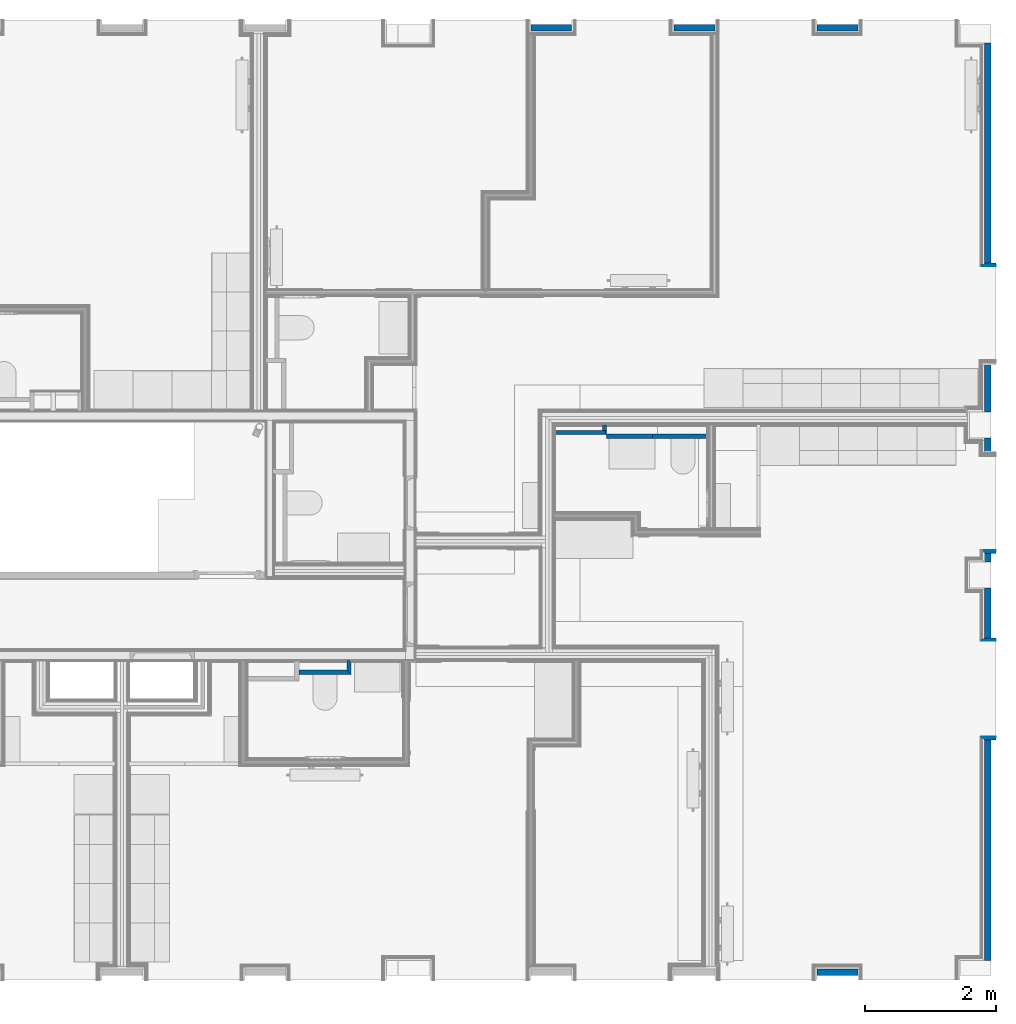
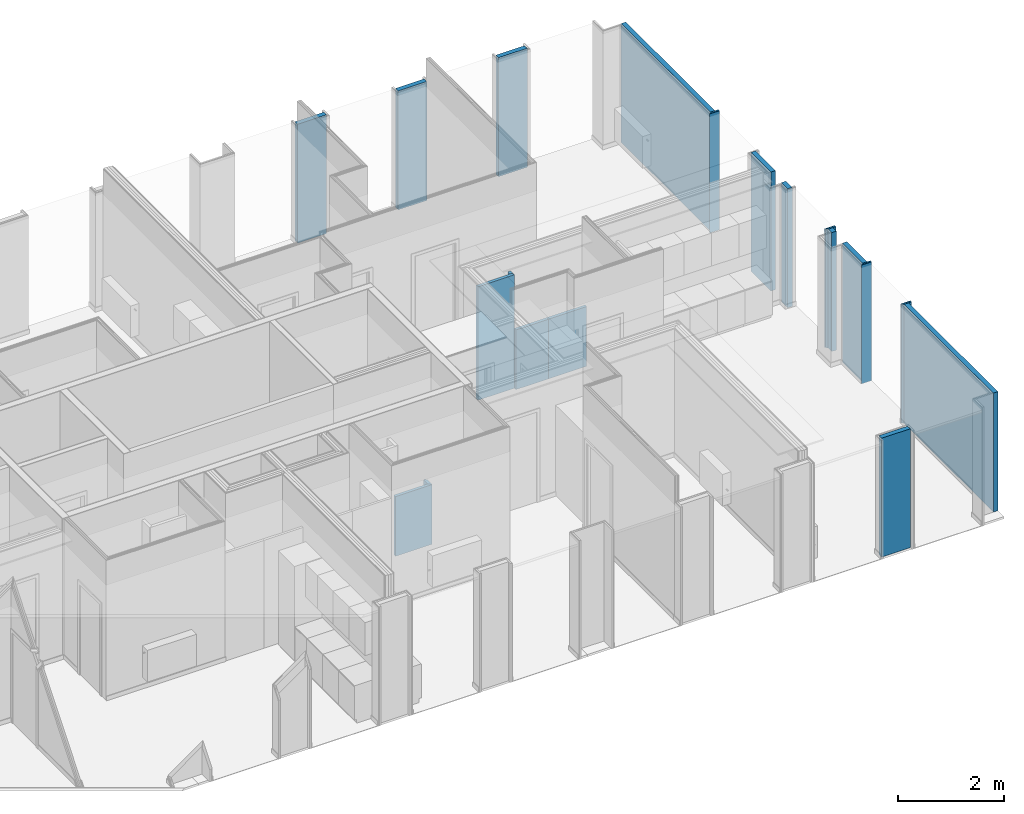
# One storey, part 5 of 64: 24 walls.
"""IFC2X3 building model written with IfcOpenShell, lengths in metres."""

from ifc_helpers import new_model, entity, si_unit, converted_unit, derived_unit, money_unit, direction, frame, frame_2d, origin_with_axes, place, context, subcontext, project, spatial, polyline, rectangle, outline, extrude, material, layer, layer_set, layer_usage, type_object, element, save


model = new_model("IFC2X3")

# Units and contexts
model_context = context("Model", 3, precision=1e-05, world=origin_with_axes(), true_north=direction((0.0, 1.0)))
body_context = subcontext(model_context, "Body", "Model", "MODEL_VIEW", scale=1.0)
ifc_project = project(units=[si_unit("LENGTHUNIT", "METRE"), si_unit("AREAUNIT", "SQUARE_METRE"), si_unit("VOLUMEUNIT", "CUBIC_METRE"), si_unit("ABSORBEDDOSEUNIT", "GRAY"), si_unit("AMOUNTOFSUBSTANCEUNIT", "MOLE"), si_unit("DOSEEQUIVALENTUNIT", "SIEVERT"), si_unit("ELECTRICCAPACITANCEUNIT", "FARAD"), si_unit("ELECTRICCHARGEUNIT", "COULOMB"), si_unit("ELECTRICCONDUCTANCEUNIT", "SIEMENS"), si_unit("ELECTRICCURRENTUNIT", "AMPERE"), si_unit("ELECTRICRESISTANCEUNIT", "OHM"), si_unit("ELECTRICVOLTAGEUNIT", "VOLT"), si_unit("ENERGYUNIT", "JOULE"), si_unit("FORCEUNIT", "NEWTON"), si_unit("FREQUENCYUNIT", "HERTZ"), si_unit("ILLUMINANCEUNIT", "LUX"), si_unit("INDUCTANCEUNIT", "HENRY"), si_unit("LUMINOUSFLUXUNIT", "LUMEN"), si_unit("LUMINOUSINTENSITYUNIT", "CANDELA"), si_unit("MAGNETICFLUXDENSITYUNIT", "TESLA"), si_unit("MAGNETICFLUXUNIT", "WEBER"), si_unit("MASSUNIT", "GRAM"), converted_unit("PLANEANGLEUNIT", "degree", entity("IfcReal", 0.0174532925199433), si_unit("PLANEANGLEUNIT", "RADIAN"), dimensions=[0, 0, 0, 0, 0, 0, 0]), si_unit("POWERUNIT", "WATT"), si_unit("PRESSUREUNIT", "PASCAL"), si_unit("RADIOACTIVITYUNIT", "BECQUEREL"), si_unit("SOLIDANGLEUNIT", "STERADIAN"), si_unit("THERMODYNAMICTEMPERATUREUNIT", "KELVIN"), si_unit("TIMEUNIT", "SECOND"), derived_unit("ACCELERATIONUNIT", [(si_unit("LENGTHUNIT", "METRE"), 1), (si_unit("TIMEUNIT", "SECOND"), -2)]), derived_unit("ANGULARVELOCITYUNIT", [(converted_unit("PLANEANGLEUNIT", "degree", entity("IfcReal", 0.0174532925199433), si_unit("PLANEANGLEUNIT", "RADIAN"), dimensions=[0, 0, 0, 0, 0, 0, 0]), 1), (si_unit("TIMEUNIT", "SECOND"), -1)]), derived_unit("CURVATUREUNIT", [(converted_unit("PLANEANGLEUNIT", "degree", entity("IfcReal", 0.0174532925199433), si_unit("PLANEANGLEUNIT", "RADIAN"), dimensions=[0, 0, 0, 0, 0, 0, 0]), 1), (si_unit("LENGTHUNIT", "METRE"), -1)]), derived_unit("DYNAMICVISCOSITYUNIT", [(si_unit("PRESSUREUNIT", "PASCAL"), 1), (si_unit("TIMEUNIT", "SECOND"), 1)]), derived_unit("HEATFLUXDENSITYUNIT", [(si_unit("POWERUNIT", "WATT"), 1), (si_unit("LENGTHUNIT", "METRE"), -2)]), derived_unit("HEATINGVALUEUNIT", [(si_unit("ENERGYUNIT", "JOULE"), 1), (si_unit("MASSUNIT", "GRAM"), -1)]), derived_unit("INTEGERCOUNTRATEUNIT", [(si_unit("TIMEUNIT", "SECOND"), -1)]), derived_unit("IONCONCENTRATIONUNIT", [(si_unit("MASSUNIT", "GRAM"), 1), (si_unit("VOLUMEUNIT", "CUBIC_METRE"), -1)]), derived_unit("ISOTHERMALMOISTURECAPACITYUNIT", [(si_unit("VOLUMEUNIT", "CUBIC_METRE"), 1), (si_unit("MASSUNIT", "GRAM"), -1)]), derived_unit("KINEMATICVISCOSITYUNIT", [(si_unit("AREAUNIT", "SQUARE_METRE"), 1), (si_unit("TIMEUNIT", "SECOND"), -1)]), derived_unit("LINEARFORCEUNIT", [(si_unit("FORCEUNIT", "NEWTON"), 1), (si_unit("LENGTHUNIT", "METRE"), -1)]), derived_unit("LINEARMOMENTUNIT", [(si_unit("FORCEUNIT", "NEWTON"), 1), (si_unit("LENGTHUNIT", "METRE"), -1)]), derived_unit("LINEARSTIFFNESSUNIT", [(si_unit("FORCEUNIT", "NEWTON"), 1), (si_unit("LENGTHUNIT", "METRE"), -1)]), derived_unit("LINEARVELOCITYUNIT", [(si_unit("LENGTHUNIT", "METRE"), 1), (si_unit("TIMEUNIT", "SECOND"), -1)]), derived_unit("LUMINOUSINTENSITYDISTRIBUTIONUNIT", [(si_unit("LUMINOUSINTENSITYUNIT", "CANDELA"), 1), (si_unit("LUMINOUSFLUXUNIT", "LUMEN"), -1)]), derived_unit("MASSDENSITYUNIT", [(si_unit("MASSUNIT", "GRAM"), 1), (si_unit("VOLUMEUNIT", "CUBIC_METRE"), -1)]), derived_unit("MASSFLOWRATEUNIT", [(si_unit("MASSUNIT", "GRAM"), 1), (si_unit("TIMEUNIT", "SECOND"), -1)]), derived_unit("MASSPERLENGTHUNIT", [(si_unit("MASSUNIT", "GRAM"), 1), (si_unit("LENGTHUNIT", "METRE"), -1)]), derived_unit("MODULUSOFELASTICITYUNIT", [(si_unit("FORCEUNIT", "NEWTON"), 1), (si_unit("AREAUNIT", "SQUARE_METRE"), -1)]), derived_unit("MODULUSOFLINEARSUBGRADEREACTIONUNIT", [(si_unit("FORCEUNIT", "NEWTON"), 1), (si_unit("LENGTHUNIT", "METRE"), -2)]), derived_unit("MODULUSOFROTATIONALSUBGRADEREACTIONUNIT", [(si_unit("FORCEUNIT", "NEWTON"), 1), (si_unit("LENGTHUNIT", "METRE"), 1)]), derived_unit("MODULUSOFSUBGRADEREACTIONUNIT", [(si_unit("FORCEUNIT", "NEWTON"), 1), (si_unit("VOLUMEUNIT", "CUBIC_METRE"), -1)]), derived_unit("MOISTUREDIFFUSIVITYUNIT", [(si_unit("VOLUMEUNIT", "CUBIC_METRE"), 1), (si_unit("TIMEUNIT", "SECOND"), -1)]), derived_unit("MOLECULARWEIGHTUNIT", [(si_unit("MASSUNIT", "GRAM"), 1), (si_unit("AMOUNTOFSUBSTANCEUNIT", "MOLE"), -1)]), derived_unit("PLANARFORCEUNIT", [(si_unit("FORCEUNIT", "NEWTON"), 1), (si_unit("LENGTHUNIT", "METRE"), -2)]), derived_unit("ROTATIONALFREQUENCYUNIT", [(si_unit("TIMEUNIT", "SECOND"), -1)]), derived_unit("ROTATIONALMASSUNIT", [(si_unit("MASSUNIT", "GRAM"), 1), (si_unit("LENGTHUNIT", "METRE"), 2)]), derived_unit("ROTATIONALSTIFFNESSUNIT", [(si_unit("FORCEUNIT", "NEWTON"), 1), (si_unit("LENGTHUNIT", "METRE"), 1), (converted_unit("PLANEANGLEUNIT", "degree", entity("IfcReal", 0.0174532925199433), si_unit("PLANEANGLEUNIT", "RADIAN"), dimensions=[0, 0, 0, 0, 0, 0, 0]), -1)]), derived_unit("SECTIONAREAINTEGRALUNIT", [(si_unit("LENGTHUNIT", "METRE"), 5)]), derived_unit("SECTIONMODULUSUNIT", [(si_unit("LENGTHUNIT", "METRE"), 3)]), derived_unit("SHEARMODULUSUNIT", [(si_unit("FORCEUNIT", "NEWTON"), 1), (si_unit("AREAUNIT", "SQUARE_METRE"), -1)]), derived_unit("SOUNDPOWERUNIT", [(si_unit("ENERGYUNIT", "JOULE"), 1), (si_unit("TIMEUNIT", "SECOND"), -1)]), derived_unit("SPECIFICHEATCAPACITYUNIT", [(si_unit("FORCEUNIT", "NEWTON"), 1), (si_unit("MASSUNIT", "GRAM"), -1), (si_unit("THERMODYNAMICTEMPERATUREUNIT", "KELVIN"), -1)]), derived_unit("TEMPERATUREGRADIENTUNIT", [(si_unit("THERMODYNAMICTEMPERATUREUNIT", "KELVIN"), 1), (si_unit("LENGTHUNIT", "METRE"), -1)]), derived_unit("THERMALADMITTANCEUNIT", [(si_unit("POWERUNIT", "WATT"), 1), (si_unit("AREAUNIT", "SQUARE_METRE"), -1), (si_unit("THERMODYNAMICTEMPERATUREUNIT", "KELVIN"), -1)]), derived_unit("THERMALCONDUCTANCEUNIT", [(si_unit("POWERUNIT", "WATT"), 1), (si_unit("LENGTHUNIT", "METRE"), -1), (si_unit("THERMODYNAMICTEMPERATUREUNIT", "KELVIN"), -1)]), derived_unit("THERMALEXPANSIONCOEFFICIENTUNIT", [(si_unit("THERMODYNAMICTEMPERATUREUNIT", "KELVIN"), -1)]), derived_unit("THERMALRESISTANCEUNIT", [(si_unit("AREAUNIT", "SQUARE_METRE"), 1), (si_unit("POWERUNIT", "WATT"), -1)]), derived_unit("THERMALTRANSMITTANCEUNIT", [(si_unit("POWERUNIT", "WATT"), 1), (si_unit("AREAUNIT", "SQUARE_METRE"), -1), (si_unit("THERMODYNAMICTEMPERATUREUNIT", "KELVIN"), -1)]), derived_unit("TORQUEUNIT", [(si_unit("FORCEUNIT", "NEWTON"), 1), (si_unit("LENGTHUNIT", "METRE"), 1)]), derived_unit("VAPORPERMEABILITYUNIT", [(si_unit("MASSUNIT", "GRAM"), 1), (si_unit("TIMEUNIT", "SECOND"), -1)]), derived_unit("VOLUMETRICFLOWRATEUNIT", [(si_unit("VOLUMEUNIT", "CUBIC_METRE"), 1), (si_unit("TIMEUNIT", "SECOND"), -1)]), derived_unit("WARPINGCONSTANTUNIT", [(si_unit("LENGTHUNIT", "METRE"), 6)]), derived_unit("WARPINGMOMENTUNIT", [(si_unit("FORCEUNIT", "NEWTON"), 1), (si_unit("LENGTHUNIT", "METRE"), 2)]), money_unit("GBP")], contexts=[model_context])

# Site, building, storey
site_placement = place(None, origin_with_axes())
site = spatial("IfcSite", under=ifc_project, at=site_placement, Name="Site", CompositionType="ELEMENT")
building_placement = place(site_placement, origin_with_axes())
building = spatial("IfcBuilding", under=site, at=building_placement, Name="Building01", CompositionType="ELEMENT")
storey_placement = place(building_placement, frame((0.0, 0.0, 8.64), z_axis=(0.0, 0.0, 1.0), x_axis=(1.0, 0.0, 0.0)))
storey = spatial("IfcBuildingStorey", under=building, at=storey_placement, Name="2F", CompositionType="ELEMENT", Elevation=8.64)

# Walls
ifc_material_1 = material(Name="A_BSUK_WallsExternal_Block")
ifc_layer_1 = layer(ifc_material_1, 0.1, ventilated=False)
ifc_layer_set_1 = layer_set([ifc_layer_1])
ifc_layer_usage_1 = layer_usage(ifc_layer_set_1, "AXIS2", "POSITIVE", 0.0)
wall_type_1 = type_object("IfcWallType", Name="A-Walls-ExternalBlock", PredefinedType="NOTDEFINED")
wall_1_placement = place(storey_placement, frame((24.767, 0.27, 0.0), z_axis=(0.0, 0.0, 1.0), x_axis=(-1.0, 0.0, 0.0)))
element("IfcWallStandardCase", 1, at=wall_1_placement, inside=storey, type_object=wall_type_1, material=ifc_layer_usage_1, Name="A-Walls-ExternalBlock", ObjectType="A-Walls-ExternalBlock", context=body_context, shape_type="SweptSolid", body=[
    extrude(rectangle(XDim=0.624, YDim=0.1, at=frame_2d((0.312, 0.05), x_axis=(-1.0, 0.0))), origin_with_axes(), (0.0, 0.0, 1.0), 2.74),
])
for number, where, z_axis, x_axis, name in (
    (2, (19.763, 14.63, 0.0), (0.0, 0.0, 1.0), (1.0, 0.0, 0.0), "A-Walls-ExternalBlock"),
    (3, (21.953, 14.63, 0.0), (0.0, 0.0, 1.0), (1.0, 0.0, 0.0), "A-Walls-ExternalBlock"),
    (4, (24.143, 14.63, 0.0), (0.0, 0.0, 1.0), (1.0, 0.0, 0.0), "A-Walls-ExternalBlock"),
):
    element("IfcWallStandardCase", number, at=place(storey_placement, frame(where, z_axis=z_axis, x_axis=x_axis)), inside=storey, type_object=wall_type_1, material=ifc_layer_usage_1, Name=name, ObjectType="A-Walls-ExternalBlock", context=body_context, shape_type="SweptSolid", body=[
        extrude(rectangle(XDim=0.624, YDim=0.1, at=frame_2d((0.312, 0.05), x_axis=(1.0, 0.0))), origin_with_axes(), (0.0, 0.0, 1.0), 2.74),
    ])
wall_2_placement = place(storey_placement, frame((26.71, 3.77418, 0.0), z_axis=(0.0, 0.0, 1.0), x_axis=(0.0, -1.0, 0.0)))
element("IfcWallStandardCase", 5, at=wall_2_placement, inside=storey, type_object=wall_type_1, material=ifc_layer_usage_1, Name="A-Walls-ExternalBlock", ObjectType="A-Walls-ExternalBlock", context=body_context, shape_type="SweptSolid", body=[
    extrude(rectangle(XDim=3.37418, YDim=0.1, at=frame_2d((1.68709, 0.05), x_axis=(1.0, 0.0))), origin_with_axes(), (0.0, 0.0, 1.0), 2.74),
])
wall_3_placement = place(storey_placement, frame((26.71, 6.634326, 0.0), z_axis=(0.0, 0.0, 1.0), x_axis=(0.0, -1.0, 0.0)))
element("IfcWallStandardCase", 6, at=wall_3_placement, inside=storey, type_object=wall_type_1, material=ifc_layer_usage_1, Name="A-Walls-ExternalBlock", ObjectType="A-Walls-ExternalBlock", context=body_context, shape_type="SweptSolid", body=[
    extrude(rectangle(XDim=0.134326, YDim=0.1, at=frame_2d((0.067163, 0.05), x_axis=(1.0, 0.0))), origin_with_axes(), (0.0, 0.0, 1.0), 2.74),
])
wall_4_placement = place(storey_placement, frame((26.71, 9.55018, 0.0), z_axis=(0.0, 0.0, 1.0), x_axis=(0.0, -1.0, 0.0)))
element("IfcWallStandardCase", 7, at=wall_4_placement, inside=storey, type_object=wall_type_1, material=ifc_layer_usage_1, Name="A-Walls-ExternalBlock", ObjectType="A-Walls-ExternalBlock", context=body_context, shape_type="SweptSolid", body=[
    extrude(rectangle(XDim=0.1, YDim=0.75018, at=frame_2d((0.37509, 0.05), x_axis=(0.0, -1.0))), origin_with_axes(), (0.0, 0.0, 1.0), 2.74),
])
wall_5_placement = place(storey_placement, frame((26.71, 8.4, 0.0), z_axis=(0.0, 0.0, 1.0), x_axis=(0.0, -1.0, 0.0)))
element("IfcWallStandardCase", 8, at=wall_5_placement, inside=storey, type_object=wall_type_1, material=ifc_layer_usage_1, Name="A-Walls-ExternalBlock", ObjectType="A-Walls-ExternalBlock", context=body_context, shape_type="SweptSolid", body=[
    extrude(rectangle(XDim=0.235674, YDim=0.1, at=frame_2d((0.117837, 0.05), x_axis=(-1.0, 0.0))), origin_with_axes(), (0.0, 0.0, 1.0), 2.74),
])
wall_6_placement = place(storey_placement, frame((26.71, 14.45, 0.0), z_axis=(0.0, 0.0, 1.0), x_axis=(0.0, -1.0, 0.0)))
element("IfcWallStandardCase", 9, at=wall_6_placement, inside=storey, type_object=wall_type_1, material=ifc_layer_usage_1, Name="A-Walls-ExternalBlock", ObjectType="A-Walls-ExternalBlock", context=body_context, shape_type="SweptSolid", body=[
    extrude(rectangle(XDim=3.36982, YDim=0.1, at=frame_2d((1.68491, 0.05), x_axis=(1.0, 0.0))), origin_with_axes(), (0.0, 0.0, 1.0), 2.74),
])
wall_7_placement = place(storey_placement, frame((26.71, 6.1, 0.0), z_axis=(0.0, 0.0, 1.0), x_axis=(0.0, -1.0, 0.0)))
element("IfcWallStandardCase", 10, at=wall_7_placement, inside=storey, type_object=wall_type_1, material=ifc_layer_usage_1, Name="A-Walls-ExternalBlock", ObjectType="A-Walls-ExternalBlock", context=body_context, shape_type="SweptSolid", body=[
    extrude(rectangle(XDim=0.75982, YDim=0.1, at=frame_2d((0.37991, 0.05), x_axis=(1.0, 0.0))), origin_with_axes(), (0.0, 0.0, 1.0), 2.74),
])
ifc_material_2 = material(Name="A_BSUK_Walls_Timber")
ifc_layer_2 = layer(ifc_material_2, 0.015, ventilated=False)
ifc_material_3 = material(Name="A_BSUK_OpeningsClearance")
ifc_layer_3 = layer(ifc_material_3, 0.05, ventilated=False)
ifc_layer_set_2 = layer_set([ifc_layer_2, ifc_layer_3])
ifc_layer_usage_2 = layer_usage(ifc_layer_set_2, "AXIS2", "POSITIVE", 0.0)
wall_type_2 = type_object("IfcWallType", Name="SHE_A-Walls_Type05c_PreWallShell_65mm", PredefinedType="NOTDEFINED")
wall_8_placement = place(storey_placement, frame((16.9425, 4.845, 0.0), z_axis=(0.0, 0.0, 1.0), x_axis=(0.0, 1.0, 0.0)))
element("IfcWallStandardCase", 11, at=wall_8_placement, inside=storey, type_object=wall_type_2, material=ifc_layer_usage_2, Name="5C", ObjectType="SHE_A-Walls_Type05c_PreWallShell_65mm", context=body_context, shape_type="SweptSolid", body=[
    extrude(outline(polyline([(0.12, -0.05), (0.15, -0.05), (0.15, 0.0), (0.0, 0.0), (-0.065, -0.065), (0.12, -0.065), (0.12, -0.05)])), origin_with_axes(), (0.0, 0.0, 1.0), 1.375),
])
wall_9_placement = place(storey_placement, frame((16.2075, 4.845, 0.0), z_axis=(0.0, 0.0, 1.0), x_axis=(1.0, 0.0, 0.0)))
element("IfcWallStandardCase", 12, at=wall_9_placement, inside=storey, type_object=wall_type_2, material=ifc_layer_usage_2, Name="5C", ObjectType="SHE_A-Walls_Type05c_PreWallShell_65mm", context=body_context, shape_type="SweptSolid", body=[
    extrude(outline(polyline([(0.735, 0.0), (0.0, 0.0), (0.0, -0.065), (0.8, -0.065), (0.735, 0.0)])), origin_with_axes(), (0.0, 0.0, 1.0), 1.375),
])
ifc_layer_set_3 = layer_set([ifc_layer_3, ifc_layer_2])
ifc_layer_usage_3 = layer_usage(ifc_layer_set_3, "AXIS2", "POSITIVE", 0.0)
wall_10_placement = place(storey_placement, frame((20.907661, 8.515, 0.0), z_axis=(0.0, 0.0, 1.0), x_axis=(-1.0, 0.0, 0.0)))
element("IfcWallStandardCase", 13, at=wall_10_placement, inside=storey, type_object=wall_type_2, material=ifc_layer_usage_3, Name="5C", ObjectType="SHE_A-Walls_Type05c_PreWallShell_65mm", context=body_context, shape_type="SweptSolid", body=[
    extrude(outline(polyline([(0.785, 0.065), (-0.015, 0.065), (-0.015, 0.05), (0.0, 0.05), (0.0, 0.0), (0.785, 0.0), (0.785, 0.065)])), origin_with_axes(), (0.0, 0.0, 1.0), 2.615),
])
wall_11_placement = place(storey_placement, frame((20.857661, 8.595, 0.0), z_axis=(0.0, 0.0, 1.0), x_axis=(0.0, -1.0, 0.0)))
element("IfcWallStandardCase", 14, at=wall_11_placement, inside=storey, type_object=wall_type_2, material=ifc_layer_usage_3, Name="5C", ObjectType="SHE_A-Walls_Type05c_PreWallShell_65mm", context=body_context, shape_type="SweptSolid", body=[
    extrude(outline(polyline([(0.08, 0.05), (0.13, 0.05), (0.13, 0.065), (0.0, 0.065), (0.0, 0.0), (0.08, 0.0), (0.08, 0.05)])), origin_with_axes(), (0.0, 0.0, 1.0), 2.615),
])
wall_12_placement = place(storey_placement, frame((21.626659, 8.460003, 0.0), z_axis=(0.0, 0.0, 1.0), x_axis=(-1.0, 0.0, 0.0)))
element("IfcWallStandardCase", 15, at=wall_12_placement, inside=storey, type_object=wall_type_2, material=ifc_layer_usage_3, Name="5C", ObjectType="SHE_A-Walls_Type05c_PreWallShell_65mm", context=body_context, shape_type="SweptSolid", body=[
    extrude(rectangle(XDim=0.703998, YDim=0.065, at=frame_2d((0.351999, 0.0325), x_axis=(-1.0, 0.0))), origin_with_axes(), (0.0, 0.0, 1.0), 1.375),
])
wall_13_placement = place(storey_placement, frame((22.461661, 8.46, 0.0), z_axis=(0.0, 0.0, 1.0), x_axis=(-1.0, 0.0, 0.0)))
element("IfcWallStandardCase", 16, at=wall_13_placement, inside=storey, type_object=wall_type_2, material=ifc_layer_usage_3, Name="5C", ObjectType="SHE_A-Walls_Type05c_PreWallShell_65mm", context=body_context, shape_type="SweptSolid", body=[
    extrude(rectangle(XDim=0.835002, YDim=0.065, at=frame_2d((0.417501, 0.0325), x_axis=(1.0, 0.0))), origin_with_axes(), (0.0, 0.0, 1.0), 1.375),
])
ifc_material_4 = material(Name="A_BSUK_WallInternal_Finishes_Plasterboard")
ifc_layer_4 = layer(ifc_material_4, 0.013, ventilated=False)
ifc_layer_set_4 = layer_set([ifc_layer_4])
ifc_layer_usage_4 = layer_usage(ifc_layer_set_4, "AXIS2", "POSITIVE", 0.0)
wall_type_3 = type_object("IfcWallType", Name="default", PredefinedType="NOTDEFINED")
wall_14_placement = place(storey_placement, frame((26.675, 3.80918, 0.0), z_axis=(0.0, 0.0, 1.0), x_axis=(1.0, 0.0, 0.0)))
element("IfcWallStandardCase", 17, at=wall_14_placement, inside=storey, type_object=wall_type_3, material=ifc_layer_usage_4, Name="default", ObjectType="default", context=body_context, shape_type="SweptSolid", body=[
    extrude(outline(polyline([(-0.013, 0.013), (0.0, 0.0), (0.205, 0.0), (0.205, 0.013), (-0.013, 0.013)])), origin_with_axes(), (0.0, 0.0, 1.0), 2.74),
])
ifc_material_5 = material(Name="A_BSUK_Insulation")
ifc_layer_5 = layer(ifc_material_5, 0.036, ventilated=False)
ifc_layer_set_5 = layer_set([ifc_layer_5])
ifc_layer_usage_5 = layer_usage(ifc_layer_set_5, "AXIS2", "POSITIVE", 0.0)
wall_15_placement = place(storey_placement, frame((26.71, 3.77418, 0.0), z_axis=(0.0, 0.0, 1.0), x_axis=(1.0, 0.0, 0.0)))
element("IfcWallStandardCase", 18, at=wall_15_placement, inside=storey, type_object=wall_type_3, material=ifc_layer_usage_5, Name="default", ObjectType="default", context=body_context, shape_type="SweptSolid", body=[
    extrude(outline(polyline([(-0.036, 0.036), (0.0, 0.0), (0.17, 0.0), (0.17, 0.036), (-0.036, 0.036)])), origin_with_axes(), (0.0, 0.0, 1.0), 2.74),
])
wall_16_placement = place(storey_placement, frame((26.88, 5.30518, 0.0), z_axis=(0.0, 0.0, 1.0), x_axis=(-1.0, 0.0, 0.0)))
element("IfcWallStandardCase", 19, at=wall_16_placement, inside=storey, type_object=wall_type_3, material=ifc_layer_usage_4, Name="default", ObjectType="default", context=body_context, shape_type="SweptSolid", body=[
    extrude(outline(polyline([(0.218, 0.013), (0.0, 0.013), (0.0, 0.0), (0.205, 0.0), (0.218, 0.013)])), origin_with_axes(), (0.0, 0.0, 1.0), 2.74),
])
wall_17_placement = place(storey_placement, frame((26.88, 5.34018, 0.0), z_axis=(0.0, 0.0, 1.0), x_axis=(-1.0, 0.0, 0.0)))
element("IfcWallStandardCase", 20, at=wall_17_placement, inside=storey, type_object=wall_type_3, material=ifc_layer_usage_5, Name="default", ObjectType="default", context=body_context, shape_type="SweptSolid", body=[
    extrude(outline(polyline([(0.206, 0.036), (0.0, 0.036), (0.0, 0.0), (0.17, 0.0), (0.206, 0.036)])), origin_with_axes(), (0.0, 0.0, 1.0), 2.74),
])
wall_18_placement = place(storey_placement, frame((26.675, 6.669326, 0.0), z_axis=(0.0, 0.0, 1.0), x_axis=(1.0, 0.0, 0.0)))
element("IfcWallStandardCase", 21, at=wall_18_placement, inside=storey, type_object=wall_type_3, material=ifc_layer_usage_4, Name="default", ObjectType="default", context=body_context, shape_type="SweptSolid", body=[
    extrude(outline(polyline([(-0.013, 0.013), (0.0, 0.0), (0.205, 0.0), (0.205, 0.013), (-0.013, 0.013)])), origin_with_axes(), (0.0, 0.0, 1.0), 2.74),
])
wall_19_placement = place(storey_placement, frame((26.71, 6.634326, 0.0), z_axis=(0.0, 0.0, 1.0), x_axis=(1.0, 0.0, 0.0)))
element("IfcWallStandardCase", 22, at=wall_19_placement, inside=storey, type_object=wall_type_3, material=ifc_layer_usage_5, Name="default", ObjectType="default", context=body_context, shape_type="SweptSolid", body=[
    extrude(outline(polyline([(-0.036, 0.036), (0.0, 0.0), (0.17, 0.0), (0.17, 0.036), (-0.036, 0.036)])), origin_with_axes(), (0.0, 0.0, 1.0), 2.74),
])
wall_20_placement = place(storey_placement, frame((26.88, 11.04518, 0.0), z_axis=(0.0, 0.0, 1.0), x_axis=(-1.0, 0.0, 0.0)))
element("IfcWallStandardCase", 23, at=wall_20_placement, inside=storey, type_object=wall_type_3, material=ifc_layer_usage_4, Name="default", ObjectType="default", context=body_context, shape_type="SweptSolid", body=[
    extrude(outline(polyline([(0.218, 0.013), (0.0, 0.013), (0.0, 0.0), (0.205, 0.0), (0.218, 0.013)])), origin_with_axes(), (0.0, 0.0, 1.0), 2.74),
])
wall_21_placement = place(storey_placement, frame((26.88, 11.08018, 0.0), z_axis=(0.0, 0.0, 1.0), x_axis=(-1.0, 0.0, 0.0)))
element("IfcWallStandardCase", 24, at=wall_21_placement, inside=storey, type_object=wall_type_3, material=ifc_layer_usage_5, Name="default", ObjectType="default", context=body_context, shape_type="SweptSolid", body=[
    extrude(outline(polyline([(0.206, 0.036), (0.0, 0.036), (0.0, 0.0), (0.17, 0.0), (0.206, 0.036)])), origin_with_axes(), (0.0, 0.0, 1.0), 2.74),
])

save(model, "model.ifc")
